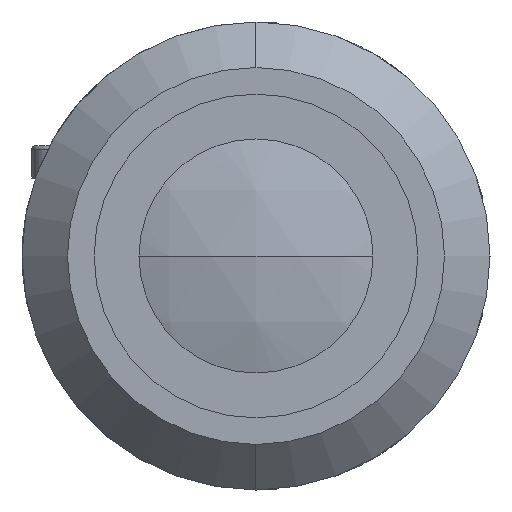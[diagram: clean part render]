
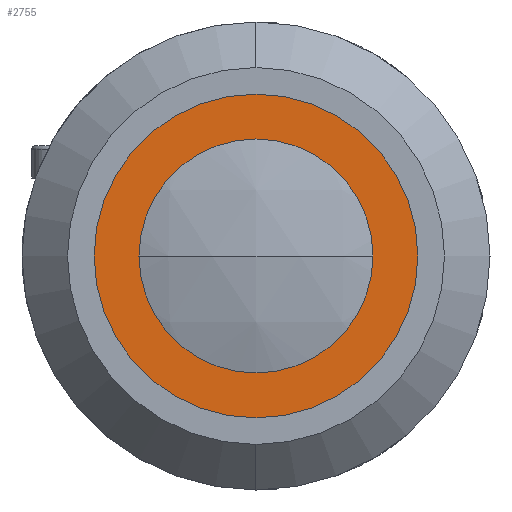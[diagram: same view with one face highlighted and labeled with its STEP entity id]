
A CAD part, left-side view. The second image highlights one B-rep face of the part: STEP entity #2755.
In plain terms, the highlighted planar face has unit normal (-1, 0, 0).
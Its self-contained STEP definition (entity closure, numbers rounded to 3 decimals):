
#43 = PLANE ( 'NONE',  #1633 ) ;
#76 = VERTEX_POINT ( 'NONE', #3207 ) ;
#112 = VERTEX_POINT ( 'NONE', #346 ) ;
#128 = EDGE_CURVE ( 'NONE', #76, #256, #2633, .T. ) ;
#166 = AXIS2_PLACEMENT_3D ( 'NONE', #1051, #2961, #1341 ) ;
#181 = EDGE_CURVE ( 'NONE', #1043, #112, #2556, .T. ) ;
#256 = VERTEX_POINT ( 'NONE', #603 ) ;
#332 = EDGE_CURVE ( 'NONE', #112, #1043, #2429, .T. ) ;
#346 = CARTESIAN_POINT ( 'NONE',  ( 3.5, 0., 13.2 ) ) ;
#368 = EDGE_LOOP ( 'NONE', ( #1291, #1468 ) ) ;
#556 = DIRECTION ( 'NONE',  ( -1., 0., 0. ) ) ;
#603 = CARTESIAN_POINT ( 'NONE',  ( 3.5, 0., 9. ) ) ;
#769 = CARTESIAN_POINT ( 'NONE',  ( 3.5, 0., -13.2 ) ) ;
#851 = AXIS2_PLACEMENT_3D ( 'NONE', #2228, #556, #2500 ) ;
#1033 = EDGE_CURVE ( 'NONE', #256, #76, #1085, .T. ) ;
#1043 = VERTEX_POINT ( 'NONE', #769 ) ;
#1051 = CARTESIAN_POINT ( 'NONE',  ( 3.5, 0., 0. ) ) ;
#1085 = CIRCLE ( 'NONE', #166, 9. ) ;
#1130 = AXIS2_PLACEMENT_3D ( 'NONE', #3052, #1436, #3278 ) ;
#1152 = AXIS2_PLACEMENT_3D ( 'NONE', #3033, #1417, #3266 ) ;
#1291 = ORIENTED_EDGE ( 'NONE', *, *, #332, .T. ) ;
#1341 = DIRECTION ( 'NONE',  ( 0., 0., 1. ) ) ;
#1371 = DIRECTION ( 'NONE',  ( 0., 0., -1. ) ) ;
#1417 = DIRECTION ( 'NONE',  ( -1., 0., 0. ) ) ;
#1436 = DIRECTION ( 'NONE',  ( -1., 0., 0. ) ) ;
#1468 = ORIENTED_EDGE ( 'NONE', *, *, #181, .T. ) ;
#1633 = AXIS2_PLACEMENT_3D ( 'NONE', #3218, #2991, #1371 ) ;
#1766 = ORIENTED_EDGE ( 'NONE', *, *, #1033, .F. ) ;
#1779 = EDGE_LOOP ( 'NONE', ( #1766, #2495 ) ) ;
#2228 = CARTESIAN_POINT ( 'NONE',  ( 3.5, 0., 0. ) ) ;
#2429 = CIRCLE ( 'NONE', #851, 13.2 ) ;
#2495 = ORIENTED_EDGE ( 'NONE', *, *, #128, .F. ) ;
#2500 = DIRECTION ( 'NONE',  ( 0., 0., 1. ) ) ;
#2556 = CIRCLE ( 'NONE', #1130, 13.2 ) ;
#2633 = CIRCLE ( 'NONE', #1152, 9. ) ;
#2743 = FACE_OUTER_BOUND ( 'NONE', #368, .T. ) ;
#2755 = ADVANCED_FACE ( 'NONE', ( #2785, #2743 ), #43, .F. ) ;
#2785 = FACE_BOUND ( 'NONE', #1779, .T. ) ;
#2961 = DIRECTION ( 'NONE',  ( -1., 0., 0. ) ) ;
#2991 = DIRECTION ( 'NONE',  ( 1., 0., 0. ) ) ;
#3033 = CARTESIAN_POINT ( 'NONE',  ( 3.5, 0., 0. ) ) ;
#3052 = CARTESIAN_POINT ( 'NONE',  ( 3.5, 0., 0. ) ) ;
#3207 = CARTESIAN_POINT ( 'NONE',  ( 3.5, 0., -9. ) ) ;
#3218 = CARTESIAN_POINT ( 'NONE',  ( 3.5, 13.2, 0. ) ) ;
#3266 = DIRECTION ( 'NONE',  ( 0., 0., 1. ) ) ;
#3278 = DIRECTION ( 'NONE',  ( 0., 0., 1. ) ) ;
